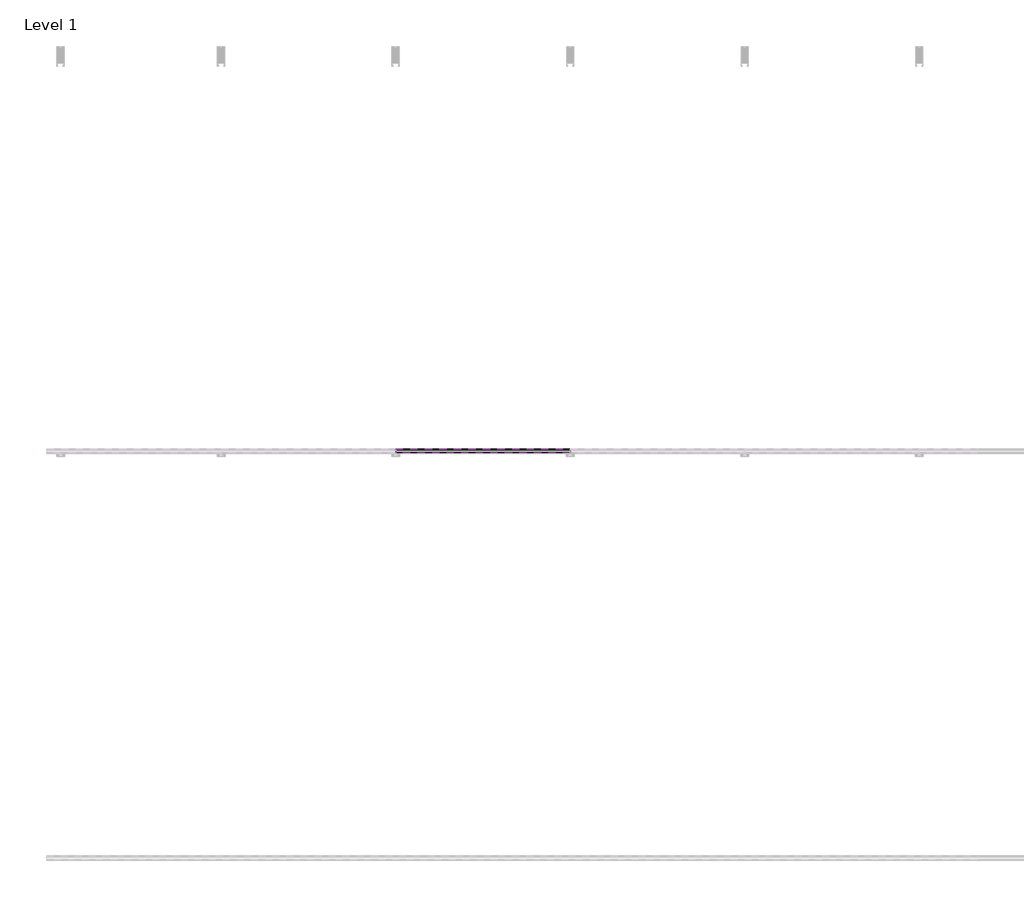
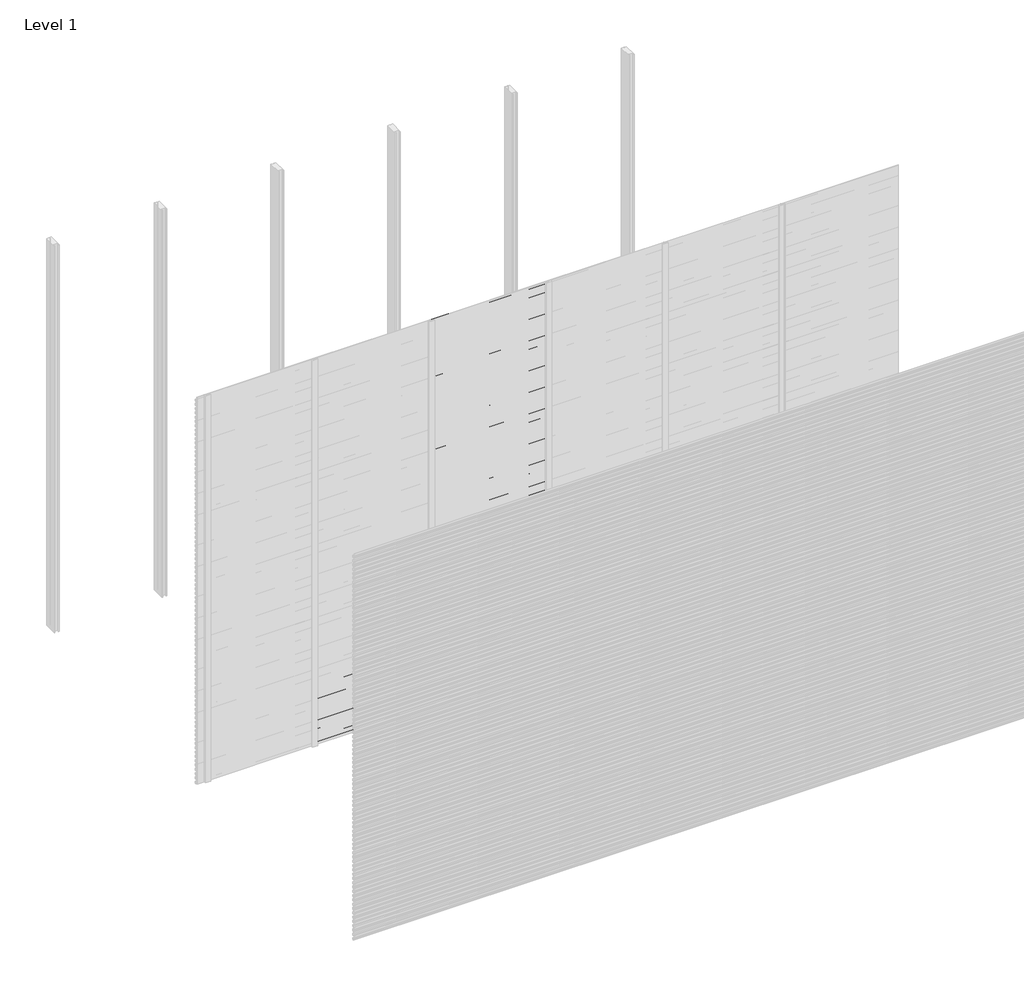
# One storey, part 54 of 96: 76 proxies.
"""IFC4 building model written with IfcOpenShell, lengths in millimetres."""

from ifc_helpers import new_model, si_unit, frame, origin, place, context, project, spatial, polyline, outline, extrude, element, save

model = new_model("IFC4")

# Units and contexts
model_context = context("Model", 3, world=origin())
ifc_project = project(units=[si_unit("LENGTHUNIT", "METRE", prefix="MILLI")], contexts=[model_context])

# Site, building, storey
site = spatial("IfcSite", under=ifc_project)
building = spatial("IfcBuilding", under=site)
storey = spatial("IfcBuildingStorey", under=building, Name="Level 1", Elevation=0.0)

# Proxies
placement = place(None, origin())
element("IfcBuildingElementProxy", 1, Name="Wall Sweeps", at=placement, inside=storey, context=model_context, shape_type="SweptSolid", body=[
    extrude(outline(polyline([(-23977.6, 440.9655033), (-23977.6, 426.6779188), (-23982.4114965, 423.9), (-23982.4114965, 425.1701706), (-23978.85, 427.2264016), (-23978.85, 440.2437382), (-23998.0, 451.3000799), (-23998.0, 466.2), (-23996.75, 466.2), (-23996.75, 452.0217609), (-23977.6, 440.9655033)])), frame((857.1428571, 0.0, 0.0), z_axis=(1.0, 0.0, 0.0), x_axis=(0.0, 1.0, 0.0)), (0.0, 0.0, 1.0), 857.1428571),
])
element("IfcBuildingElementProxy", 2, Name="Wall Sweeps", at=placement, inside=storey, context=model_context, shape_type="SweptSolid", body=[
    extrude(outline(polyline([(-23977.6, 407.6655033), (-23977.6, 393.3779188), (-23982.4114965, 390.6), (-23982.4114965, 391.8701706), (-23978.85, 393.9264016), (-23978.85, 406.9437382), (-23998.0, 418.0000799), (-23998.0, 432.9), (-23996.75, 432.9), (-23996.75, 418.7217609), (-23977.6, 407.6655033)])), frame((857.1428571, 0.0, 0.0), z_axis=(1.0, 0.0, 0.0), x_axis=(0.0, 1.0, 0.0)), (0.0, 0.0, 1.0), 857.1428571),
])
element("IfcBuildingElementProxy", 3, Name="Wall Sweeps", at=placement, inside=storey, context=model_context, shape_type="SweptSolid", body=[
    extrude(outline(polyline([(-23977.6, 374.3655033), (-23977.6, 360.0779188), (-23982.4114965, 357.3), (-23982.4114965, 358.5701706), (-23978.85, 360.6264016), (-23978.85, 373.6437382), (-23998.0, 384.7000799), (-23998.0, 399.6), (-23996.75, 399.6), (-23996.75, 385.4217609), (-23977.6, 374.3655033)])), frame((857.1428571, 0.0, 0.0), z_axis=(1.0, 0.0, 0.0), x_axis=(0.0, 1.0, 0.0)), (0.0, 0.0, 1.0), 857.1428571),
])
element("IfcBuildingElementProxy", 4, Name="Wall Sweeps", at=placement, inside=storey, context=model_context, shape_type="SweptSolid", body=[
    extrude(outline(polyline([(-23977.6, 341.0655033), (-23977.6, 326.7779188), (-23982.4114965, 324.0), (-23982.4114965, 325.2701706), (-23978.85, 327.3264016), (-23978.85, 340.3437382), (-23998.0, 351.4000799), (-23998.0, 366.3), (-23996.75, 366.3), (-23996.75, 352.1217609), (-23977.6, 341.0655033)])), frame((857.1428571, 0.0, 0.0), z_axis=(1.0, 0.0, 0.0), x_axis=(0.0, 1.0, 0.0)), (0.0, 0.0, 1.0), 857.1428571),
])
element("IfcBuildingElementProxy", 5, Name="Wall Sweeps", at=placement, inside=storey, context=model_context, shape_type="SweptSolid", body=[
    extrude(outline(polyline([(-23977.6, 307.7655033), (-23977.6, 293.4779188), (-23982.4114965, 290.7), (-23982.4114965, 291.9701706), (-23978.85, 294.0264016), (-23978.85, 307.0437382), (-23998.0, 318.1000799), (-23998.0, 333.0), (-23996.75, 333.0), (-23996.75, 318.8217609), (-23977.6, 307.7655033)])), frame((857.1428571, 0.0, 0.0), z_axis=(1.0, 0.0, 0.0), x_axis=(0.0, 1.0, 0.0)), (0.0, 0.0, 1.0), 857.1428571),
])
element("IfcBuildingElementProxy", 6, Name="Wall Sweeps", at=placement, inside=storey, context=model_context, shape_type="SweptSolid", body=[
    extrude(outline(polyline([(-23977.6, 274.4655033), (-23977.6, 260.1779188), (-23982.4114965, 257.4), (-23982.4114965, 258.6701706), (-23978.85, 260.7264016), (-23978.85, 273.7437382), (-23998.0, 284.8000799), (-23998.0, 299.7), (-23996.75, 299.7), (-23996.75, 285.5217609), (-23977.6, 274.4655033)])), frame((857.1428571, 0.0, 0.0), z_axis=(1.0, 0.0, 0.0), x_axis=(0.0, 1.0, 0.0)), (0.0, 0.0, 1.0), 857.1428571),
])
element("IfcBuildingElementProxy", 7, Name="Wall Sweeps", at=placement, inside=storey, context=model_context, shape_type="SweptSolid", body=[
    extrude(outline(polyline([(-23977.6, 241.1655033), (-23977.6, 226.8779188), (-23982.4114965, 224.1), (-23982.4114965, 225.3701706), (-23978.85, 227.4264016), (-23978.85, 240.4437382), (-23998.0, 251.5000799), (-23998.0, 266.4), (-23996.75, 266.4), (-23996.75, 252.2217609), (-23977.6, 241.1655033)])), frame((857.1428571, 0.0, 0.0), z_axis=(1.0, 0.0, 0.0), x_axis=(0.0, 1.0, 0.0)), (0.0, 0.0, 1.0), 857.1428571),
])
element("IfcBuildingElementProxy", 8, Name="Wall Sweeps", at=placement, inside=storey, context=model_context, shape_type="SweptSolid", body=[
    extrude(outline(polyline([(-23977.6, 207.8655033), (-23977.6, 193.5779188), (-23982.4114965, 190.8), (-23982.4114965, 192.0701706), (-23978.85, 194.1264016), (-23978.85, 207.1437382), (-23998.0, 218.2000799), (-23998.0, 233.1), (-23996.75, 233.1), (-23996.75, 218.9217609), (-23977.6, 207.8655033)])), frame((857.1428571, 0.0, 0.0), z_axis=(1.0, 0.0, 0.0), x_axis=(0.0, 1.0, 0.0)), (0.0, 0.0, 1.0), 857.1428571),
])
element("IfcBuildingElementProxy", 9, Name="Wall Sweeps", at=placement, inside=storey, context=model_context, shape_type="SweptSolid", body=[
    extrude(outline(polyline([(-23977.6, 174.5655033), (-23977.6, 160.2779188), (-23982.4114965, 157.5), (-23982.4114965, 158.7701706), (-23978.85, 160.8264016), (-23978.85, 173.8437382), (-23998.0, 184.9000799), (-23998.0, 199.8), (-23996.75, 199.8), (-23996.75, 185.6217609), (-23977.6, 174.5655033)])), frame((857.1428571, 0.0, 0.0), z_axis=(1.0, 0.0, 0.0), x_axis=(0.0, 1.0, 0.0)), (0.0, 0.0, 1.0), 857.1428571),
])
element("IfcBuildingElementProxy", 10, Name="Wall Sweeps", at=placement, inside=storey, context=model_context, shape_type="SweptSolid", body=[
    extrude(outline(polyline([(-23977.6, 141.2655033), (-23977.6, 126.9779188), (-23982.4114965, 124.2), (-23982.4114965, 125.4701706), (-23978.85, 127.5264016), (-23978.85, 140.5437382), (-23998.0, 151.6000799), (-23998.0, 166.5), (-23996.75, 166.5), (-23996.75, 152.3217609), (-23977.6, 141.2655033)])), frame((857.1428571, 0.0, 0.0), z_axis=(1.0, 0.0, 0.0), x_axis=(0.0, 1.0, 0.0)), (0.0, 0.0, 1.0), 857.1428571),
])
element("IfcBuildingElementProxy", 11, Name="Wall Sweeps", at=placement, inside=storey, context=model_context, shape_type="SweptSolid", body=[
    extrude(outline(polyline([(-23977.6, 107.9655033), (-23977.6, 93.6779188), (-23982.4114965, 90.9), (-23982.4114965, 92.1701706), (-23978.85, 94.2264016), (-23978.85, 107.2437382), (-23998.0, 118.3000799), (-23998.0, 133.2), (-23996.75, 133.2), (-23996.75, 119.0217609), (-23977.6, 107.9655033)])), frame((857.1428571, 0.0, 0.0), z_axis=(1.0, 0.0, 0.0), x_axis=(0.0, 1.0, 0.0)), (0.0, 0.0, 1.0), 857.1428571),
])
element("IfcBuildingElementProxy", 12, Name="Wall Sweeps", at=placement, inside=storey, context=model_context, shape_type="SweptSolid", body=[
    extrude(outline(polyline([(-23977.6, 74.6655033), (-23977.6, 60.3779188), (-23982.4114965, 57.6), (-23982.4114965, 58.8701706), (-23978.85, 60.9264016), (-23978.85, 73.9437382), (-23998.0, 85.0000799), (-23998.0, 99.9), (-23996.75, 99.9), (-23996.75, 85.7217609), (-23977.6, 74.6655033)])), frame((857.1428571, 0.0, 0.0), z_axis=(1.0, 0.0, 0.0), x_axis=(0.0, 1.0, 0.0)), (0.0, 0.0, 1.0), 857.1428571),
])
element("IfcBuildingElementProxy", 13, Name="Wall Sweeps", at=placement, inside=storey, context=model_context, shape_type="SweptSolid", body=[
    extrude(outline(polyline([(-23977.6, 41.3655033), (-23977.6, 27.0779188), (-23982.4114965, 24.3), (-23982.4114965, 25.5701706), (-23978.85, 27.6264016), (-23978.85, 40.6437382), (-23998.0, 51.7000799), (-23998.0, 66.6), (-23996.75, 66.6), (-23996.75, 52.4217609), (-23977.6, 41.3655033)])), frame((857.1428571, 0.0, 0.0), z_axis=(1.0, 0.0, 0.0), x_axis=(0.0, 1.0, 0.0)), (0.0, 0.0, 1.0), 857.1428571),
])
element("IfcBuildingElementProxy", 14, Name="Wall Sweeps", at=placement, inside=storey, context=model_context, shape_type="SweptSolid", body=[
    extrude(outline(polyline([(-23977.6, 8.0655033), (-23977.6, -6.2220812), (-23982.4114965, -9.0), (-23982.4114965, -7.7298294), (-23978.85, -5.6735984), (-23978.85, 7.3437382), (-23998.0, 18.4000799), (-23998.0, 33.3), (-23996.75, 33.3), (-23996.75, 19.1217609), (-23977.6, 8.0655033)])), frame((857.1428571, 0.0, 0.0), z_axis=(1.0, 0.0, 0.0), x_axis=(0.0, 1.0, 0.0)), (0.0, 0.0, 1.0), 857.1428571),
])
element("IfcBuildingElementProxy", 15, Name="Wall Sweeps", at=placement, inside=storey, context=model_context, shape_type="SweptSolid", body=[
    extrude(outline(polyline([(-23977.6, 2971.7655033), (-23977.6, 2957.4779188), (-23982.4114965, 2954.7), (-23982.4114965, 2955.9701706), (-23978.85, 2958.0264016), (-23978.85, 2971.0437382), (-23998.0, 2982.1000799), (-23998.0, 2997.0), (-23996.75, 2997.0), (-23996.75, 2982.8217609), (-23977.6, 2971.7655033)])), frame((1714.2857143, 0.0, 0.0), z_axis=(1.0, 0.0, 0.0), x_axis=(0.0, 1.0, 0.0)), (0.0, 0.0, 1.0), 857.1428571),
])
element("IfcBuildingElementProxy", 16, Name="Wall Sweeps", at=placement, inside=storey, context=model_context, shape_type="SweptSolid", body=[
    extrude(outline(polyline([(-23977.6, 2938.4655033), (-23977.6, 2924.1779188), (-23982.4114965, 2921.4), (-23982.4114965, 2922.6701706), (-23978.85, 2924.7264016), (-23978.85, 2937.7437382), (-23998.0, 2948.8000799), (-23998.0, 2963.7), (-23996.75, 2963.7), (-23996.75, 2949.5217609), (-23977.6, 2938.4655033)])), frame((1714.2857143, 0.0, 0.0), z_axis=(1.0, 0.0, 0.0), x_axis=(0.0, 1.0, 0.0)), (0.0, 0.0, 1.0), 857.1428571),
])
element("IfcBuildingElementProxy", 17, Name="Wall Sweeps", at=placement, inside=storey, context=model_context, shape_type="SweptSolid", body=[
    extrude(outline(polyline([(-23977.6, 2905.1655033), (-23977.6, 2890.8779188), (-23982.4114965, 2888.1), (-23982.4114965, 2889.3701706), (-23978.85, 2891.4264016), (-23978.85, 2904.4437382), (-23998.0, 2915.5000799), (-23998.0, 2930.4), (-23996.75, 2930.4), (-23996.75, 2916.2217609), (-23977.6, 2905.1655033)])), frame((1714.2857143, 0.0, 0.0), z_axis=(1.0, 0.0, 0.0), x_axis=(0.0, 1.0, 0.0)), (0.0, 0.0, 1.0), 857.1428571),
])
element("IfcBuildingElementProxy", 18, Name="Wall Sweeps", at=placement, inside=storey, context=model_context, shape_type="SweptSolid", body=[
    extrude(outline(polyline([(-23977.6, 2871.8655033), (-23977.6, 2857.5779188), (-23982.4114965, 2854.8), (-23982.4114965, 2856.0701706), (-23978.85, 2858.1264016), (-23978.85, 2871.1437382), (-23998.0, 2882.2000799), (-23998.0, 2897.1), (-23996.75, 2897.1), (-23996.75, 2882.9217609), (-23977.6, 2871.8655033)])), frame((1714.2857143, 0.0, 0.0), z_axis=(1.0, 0.0, 0.0), x_axis=(0.0, 1.0, 0.0)), (0.0, 0.0, 1.0), 857.1428571),
])
element("IfcBuildingElementProxy", 19, Name="Wall Sweeps", at=placement, inside=storey, context=model_context, shape_type="SweptSolid", body=[
    extrude(outline(polyline([(-23977.6, 2838.5655033), (-23977.6, 2824.2779188), (-23982.4114965, 2821.5), (-23982.4114965, 2822.7701706), (-23978.85, 2824.8264016), (-23978.85, 2837.8437382), (-23998.0, 2848.9000799), (-23998.0, 2863.8), (-23996.75, 2863.8), (-23996.75, 2849.6217609), (-23977.6, 2838.5655033)])), frame((1714.2857143, 0.0, 0.0), z_axis=(1.0, 0.0, 0.0), x_axis=(0.0, 1.0, 0.0)), (0.0, 0.0, 1.0), 857.1428571),
])
element("IfcBuildingElementProxy", 20, Name="Wall Sweeps", at=placement, inside=storey, context=model_context, shape_type="SweptSolid", body=[
    extrude(outline(polyline([(-23977.6, 2805.2655033), (-23977.6, 2790.9779188), (-23982.4114965, 2788.2), (-23982.4114965, 2789.4701706), (-23978.85, 2791.5264016), (-23978.85, 2804.5437382), (-23998.0, 2815.6000799), (-23998.0, 2830.5), (-23996.75, 2830.5), (-23996.75, 2816.3217609), (-23977.6, 2805.2655033)])), frame((1714.2857143, 0.0, 0.0), z_axis=(1.0, 0.0, 0.0), x_axis=(0.0, 1.0, 0.0)), (0.0, 0.0, 1.0), 857.1428571),
])
element("IfcBuildingElementProxy", 21, Name="Wall Sweeps", at=placement, inside=storey, context=model_context, shape_type="SweptSolid", body=[
    extrude(outline(polyline([(-23977.6, 2771.9655033), (-23977.6, 2757.6779188), (-23982.4114965, 2754.9), (-23982.4114965, 2756.1701706), (-23978.85, 2758.2264016), (-23978.85, 2771.2437382), (-23998.0, 2782.3000799), (-23998.0, 2797.2), (-23996.75, 2797.2), (-23996.75, 2783.0217609), (-23977.6, 2771.9655033)])), frame((1714.2857143, 0.0, 0.0), z_axis=(1.0, 0.0, 0.0), x_axis=(0.0, 1.0, 0.0)), (0.0, 0.0, 1.0), 857.1428571),
])
element("IfcBuildingElementProxy", 22, Name="Wall Sweeps", at=placement, inside=storey, context=model_context, shape_type="SweptSolid", body=[
    extrude(outline(polyline([(-23977.6, 2738.6655033), (-23977.6, 2724.3779188), (-23982.4114965, 2721.6), (-23982.4114965, 2722.8701706), (-23978.85, 2724.9264016), (-23978.85, 2737.9437382), (-23998.0, 2749.0000799), (-23998.0, 2763.9), (-23996.75, 2763.9), (-23996.75, 2749.7217609), (-23977.6, 2738.6655033)])), frame((1714.2857143, 0.0, 0.0), z_axis=(1.0, 0.0, 0.0), x_axis=(0.0, 1.0, 0.0)), (0.0, 0.0, 1.0), 857.1428571),
])
element("IfcBuildingElementProxy", 23, Name="Wall Sweeps", at=placement, inside=storey, context=model_context, shape_type="SweptSolid", body=[
    extrude(outline(polyline([(-23977.6, 2705.3655033), (-23977.6, 2691.0779188), (-23982.4114965, 2688.3), (-23982.4114965, 2689.5701706), (-23978.85, 2691.6264016), (-23978.85, 2704.6437382), (-23998.0, 2715.7000799), (-23998.0, 2730.6), (-23996.75, 2730.6), (-23996.75, 2716.4217609), (-23977.6, 2705.3655033)])), frame((1714.2857143, 0.0, 0.0), z_axis=(1.0, 0.0, 0.0), x_axis=(0.0, 1.0, 0.0)), (0.0, 0.0, 1.0), 857.1428571),
])
element("IfcBuildingElementProxy", 24, Name="Wall Sweeps", at=placement, inside=storey, context=model_context, shape_type="SweptSolid", body=[
    extrude(outline(polyline([(-23977.6, 2672.0655033), (-23977.6, 2657.7779188), (-23982.4114965, 2655.0), (-23982.4114965, 2656.2701706), (-23978.85, 2658.3264016), (-23978.85, 2671.3437382), (-23998.0, 2682.4000799), (-23998.0, 2697.3), (-23996.75, 2697.3), (-23996.75, 2683.1217609), (-23977.6, 2672.0655033)])), frame((1714.2857143, 0.0, 0.0), z_axis=(1.0, 0.0, 0.0), x_axis=(0.0, 1.0, 0.0)), (0.0, 0.0, 1.0), 857.1428571),
])
element("IfcBuildingElementProxy", 25, Name="Wall Sweeps", at=placement, inside=storey, context=model_context, shape_type="SweptSolid", body=[
    extrude(outline(polyline([(-23977.6, 2638.7655033), (-23977.6, 2624.4779188), (-23982.4114965, 2621.7), (-23982.4114965, 2622.9701706), (-23978.85, 2625.0264016), (-23978.85, 2638.0437382), (-23998.0, 2649.1000799), (-23998.0, 2664.0), (-23996.75, 2664.0), (-23996.75, 2649.8217609), (-23977.6, 2638.7655033)])), frame((1714.2857143, 0.0, 0.0), z_axis=(1.0, 0.0, 0.0), x_axis=(0.0, 1.0, 0.0)), (0.0, 0.0, 1.0), 857.1428571),
])
element("IfcBuildingElementProxy", 26, Name="Wall Sweeps", at=placement, inside=storey, context=model_context, shape_type="SweptSolid", body=[
    extrude(outline(polyline([(-23977.6, 2605.4655033), (-23977.6, 2591.1779188), (-23982.4114965, 2588.4), (-23982.4114965, 2589.6701706), (-23978.85, 2591.7264016), (-23978.85, 2604.7437382), (-23998.0, 2615.8000799), (-23998.0, 2630.7), (-23996.75, 2630.7), (-23996.75, 2616.5217609), (-23977.6, 2605.4655033)])), frame((1714.2857143, 0.0, 0.0), z_axis=(1.0, 0.0, 0.0), x_axis=(0.0, 1.0, 0.0)), (0.0, 0.0, 1.0), 857.1428571),
])
element("IfcBuildingElementProxy", 27, Name="Wall Sweeps", at=placement, inside=storey, context=model_context, shape_type="SweptSolid", body=[
    extrude(outline(polyline([(-23977.6, 2572.1655033), (-23977.6, 2557.8779188), (-23982.4114965, 2555.1), (-23982.4114965, 2556.3701706), (-23978.85, 2558.4264016), (-23978.85, 2571.4437382), (-23998.0, 2582.5000799), (-23998.0, 2597.4), (-23996.75, 2597.4), (-23996.75, 2583.2217609), (-23977.6, 2572.1655033)])), frame((1714.2857143, 0.0, 0.0), z_axis=(1.0, 0.0, 0.0), x_axis=(0.0, 1.0, 0.0)), (0.0, 0.0, 1.0), 857.1428571),
])
element("IfcBuildingElementProxy", 28, Name="Wall Sweeps", at=placement, inside=storey, context=model_context, shape_type="SweptSolid", body=[
    extrude(outline(polyline([(-23977.6, 2538.8655033), (-23977.6, 2524.5779188), (-23982.4114965, 2521.8), (-23982.4114965, 2523.0701706), (-23978.85, 2525.1264016), (-23978.85, 2538.1437382), (-23998.0, 2549.2000799), (-23998.0, 2564.1), (-23996.75, 2564.1), (-23996.75, 2549.9217609), (-23977.6, 2538.8655033)])), frame((1714.2857143, 0.0, 0.0), z_axis=(1.0, 0.0, 0.0), x_axis=(0.0, 1.0, 0.0)), (0.0, 0.0, 1.0), 857.1428571),
])
element("IfcBuildingElementProxy", 29, Name="Wall Sweeps", at=placement, inside=storey, context=model_context, shape_type="SweptSolid", body=[
    extrude(outline(polyline([(-23977.6, 2505.5655033), (-23977.6, 2491.2779188), (-23982.4114965, 2488.5), (-23982.4114965, 2489.7701706), (-23978.85, 2491.8264016), (-23978.85, 2504.8437382), (-23998.0, 2515.9000799), (-23998.0, 2530.8), (-23996.75, 2530.8), (-23996.75, 2516.6217609), (-23977.6, 2505.5655033)])), frame((1714.2857143, 0.0, 0.0), z_axis=(1.0, 0.0, 0.0), x_axis=(0.0, 1.0, 0.0)), (0.0, 0.0, 1.0), 857.1428571),
])
element("IfcBuildingElementProxy", 30, Name="Wall Sweeps", at=placement, inside=storey, context=model_context, shape_type="SweptSolid", body=[
    extrude(outline(polyline([(-23977.6, 2472.2655033), (-23977.6, 2457.9779188), (-23982.4114965, 2455.2), (-23982.4114965, 2456.4701706), (-23978.85, 2458.5264016), (-23978.85, 2471.5437382), (-23998.0, 2482.6000799), (-23998.0, 2497.5), (-23996.75, 2497.5), (-23996.75, 2483.3217609), (-23977.6, 2472.2655033)])), frame((1714.2857143, 0.0, 0.0), z_axis=(1.0, 0.0, 0.0), x_axis=(0.0, 1.0, 0.0)), (0.0, 0.0, 1.0), 857.1428571),
])
element("IfcBuildingElementProxy", 31, Name="Wall Sweeps", at=placement, inside=storey, context=model_context, shape_type="SweptSolid", body=[
    extrude(outline(polyline([(-23977.6, 2438.9655033), (-23977.6, 2424.6779188), (-23982.4114965, 2421.9), (-23982.4114965, 2423.1701706), (-23978.85, 2425.2264016), (-23978.85, 2438.2437382), (-23998.0, 2449.3000799), (-23998.0, 2464.2), (-23996.75, 2464.2), (-23996.75, 2450.0217609), (-23977.6, 2438.9655033)])), frame((1714.2857143, 0.0, 0.0), z_axis=(1.0, 0.0, 0.0), x_axis=(0.0, 1.0, 0.0)), (0.0, 0.0, 1.0), 857.1428571),
])
element("IfcBuildingElementProxy", 32, Name="Wall Sweeps", at=placement, inside=storey, context=model_context, shape_type="SweptSolid", body=[
    extrude(outline(polyline([(-23977.6, 2405.6655033), (-23977.6, 2391.3779188), (-23982.4114965, 2388.6), (-23982.4114965, 2389.8701706), (-23978.85, 2391.9264016), (-23978.85, 2404.9437382), (-23998.0, 2416.0000799), (-23998.0, 2430.9), (-23996.75, 2430.9), (-23996.75, 2416.7217609), (-23977.6, 2405.6655033)])), frame((1714.2857143, 0.0, 0.0), z_axis=(1.0, 0.0, 0.0), x_axis=(0.0, 1.0, 0.0)), (0.0, 0.0, 1.0), 857.1428571),
])
element("IfcBuildingElementProxy", 33, Name="Wall Sweeps", at=placement, inside=storey, context=model_context, shape_type="SweptSolid", body=[
    extrude(outline(polyline([(-23977.6, 2372.3655033), (-23977.6, 2358.0779188), (-23982.4114965, 2355.3), (-23982.4114965, 2356.5701706), (-23978.85, 2358.6264016), (-23978.85, 2371.6437382), (-23998.0, 2382.7000799), (-23998.0, 2397.6), (-23996.75, 2397.6), (-23996.75, 2383.4217609), (-23977.6, 2372.3655033)])), frame((1714.2857143, 0.0, 0.0), z_axis=(1.0, 0.0, 0.0), x_axis=(0.0, 1.0, 0.0)), (0.0, 0.0, 1.0), 857.1428571),
])
element("IfcBuildingElementProxy", 34, Name="Wall Sweeps", at=placement, inside=storey, context=model_context, shape_type="SweptSolid", body=[
    extrude(outline(polyline([(-23977.6, 2339.0655033), (-23977.6, 2324.7779188), (-23982.4114965, 2322.0), (-23982.4114965, 2323.2701706), (-23978.85, 2325.3264016), (-23978.85, 2338.3437382), (-23998.0, 2349.4000799), (-23998.0, 2364.3), (-23996.75, 2364.3), (-23996.75, 2350.1217609), (-23977.6, 2339.0655033)])), frame((1714.2857143, 0.0, 0.0), z_axis=(1.0, 0.0, 0.0), x_axis=(0.0, 1.0, 0.0)), (0.0, 0.0, 1.0), 857.1428571),
])
element("IfcBuildingElementProxy", 35, Name="Wall Sweeps", at=placement, inside=storey, context=model_context, shape_type="SweptSolid", body=[
    extrude(outline(polyline([(-23977.6, 2305.7655033), (-23977.6, 2291.4779188), (-23982.4114965, 2288.7), (-23982.4114965, 2289.9701706), (-23978.85, 2292.0264016), (-23978.85, 2305.0437382), (-23998.0, 2316.1000799), (-23998.0, 2331.0), (-23996.75, 2331.0), (-23996.75, 2316.8217609), (-23977.6, 2305.7655033)])), frame((1714.2857143, 0.0, 0.0), z_axis=(1.0, 0.0, 0.0), x_axis=(0.0, 1.0, 0.0)), (0.0, 0.0, 1.0), 857.1428571),
])
element("IfcBuildingElementProxy", 36, Name="Wall Sweeps", at=placement, inside=storey, context=model_context, shape_type="SweptSolid", body=[
    extrude(outline(polyline([(-23977.6, 2272.4655033), (-23977.6, 2258.1779188), (-23982.4114965, 2255.4), (-23982.4114965, 2256.6701706), (-23978.85, 2258.7264016), (-23978.85, 2271.7437382), (-23998.0, 2282.8000799), (-23998.0, 2297.7), (-23996.75, 2297.7), (-23996.75, 2283.5217609), (-23977.6, 2272.4655033)])), frame((1714.2857143, 0.0, 0.0), z_axis=(1.0, 0.0, 0.0), x_axis=(0.0, 1.0, 0.0)), (0.0, 0.0, 1.0), 857.1428571),
])
element("IfcBuildingElementProxy", 37, Name="Wall Sweeps", at=placement, inside=storey, context=model_context, shape_type="SweptSolid", body=[
    extrude(outline(polyline([(-23977.6, 2239.1655033), (-23977.6, 2224.8779188), (-23982.4114965, 2222.1), (-23982.4114965, 2223.3701706), (-23978.85, 2225.4264016), (-23978.85, 2238.4437382), (-23998.0, 2249.5000799), (-23998.0, 2264.4), (-23996.75, 2264.4), (-23996.75, 2250.2217609), (-23977.6, 2239.1655033)])), frame((1714.2857143, 0.0, 0.0), z_axis=(1.0, 0.0, 0.0), x_axis=(0.0, 1.0, 0.0)), (0.0, 0.0, 1.0), 857.1428571),
])
element("IfcBuildingElementProxy", 38, Name="Wall Sweeps", at=placement, inside=storey, context=model_context, shape_type="SweptSolid", body=[
    extrude(outline(polyline([(-23977.6, 2205.8655033), (-23977.6, 2191.5779188), (-23982.4114965, 2188.8), (-23982.4114965, 2190.0701706), (-23978.85, 2192.1264016), (-23978.85, 2205.1437382), (-23998.0, 2216.2000799), (-23998.0, 2231.1), (-23996.75, 2231.1), (-23996.75, 2216.9217609), (-23977.6, 2205.8655033)])), frame((1714.2857143, 0.0, 0.0), z_axis=(1.0, 0.0, 0.0), x_axis=(0.0, 1.0, 0.0)), (0.0, 0.0, 1.0), 857.1428571),
])
element("IfcBuildingElementProxy", 39, Name="Wall Sweeps", at=placement, inside=storey, context=model_context, shape_type="SweptSolid", body=[
    extrude(outline(polyline([(-23977.6, 2172.5655033), (-23977.6, 2158.2779188), (-23982.4114965, 2155.5), (-23982.4114965, 2156.7701706), (-23978.85, 2158.8264016), (-23978.85, 2171.8437382), (-23998.0, 2182.9000799), (-23998.0, 2197.8), (-23996.75, 2197.8), (-23996.75, 2183.6217609), (-23977.6, 2172.5655033)])), frame((1714.2857143, 0.0, 0.0), z_axis=(1.0, 0.0, 0.0), x_axis=(0.0, 1.0, 0.0)), (0.0, 0.0, 1.0), 857.1428571),
])
element("IfcBuildingElementProxy", 40, Name="Wall Sweeps", at=placement, inside=storey, context=model_context, shape_type="SweptSolid", body=[
    extrude(outline(polyline([(-23977.6, 2139.2655033), (-23977.6, 2124.9779188), (-23982.4114965, 2122.2), (-23982.4114965, 2123.4701706), (-23978.85, 2125.5264016), (-23978.85, 2138.5437382), (-23998.0, 2149.6000799), (-23998.0, 2164.5), (-23996.75, 2164.5), (-23996.75, 2150.3217609), (-23977.6, 2139.2655033)])), frame((1714.2857143, 0.0, 0.0), z_axis=(1.0, 0.0, 0.0), x_axis=(0.0, 1.0, 0.0)), (0.0, 0.0, 1.0), 857.1428571),
])
element("IfcBuildingElementProxy", 41, Name="Wall Sweeps", at=placement, inside=storey, context=model_context, shape_type="SweptSolid", body=[
    extrude(outline(polyline([(-23977.6, 2105.9655033), (-23977.6, 2091.6779188), (-23982.4114965, 2088.9), (-23982.4114965, 2090.1701706), (-23978.85, 2092.2264016), (-23978.85, 2105.2437382), (-23998.0, 2116.3000799), (-23998.0, 2131.2), (-23996.75, 2131.2), (-23996.75, 2117.0217609), (-23977.6, 2105.9655033)])), frame((1714.2857143, 0.0, 0.0), z_axis=(1.0, 0.0, 0.0), x_axis=(0.0, 1.0, 0.0)), (0.0, 0.0, 1.0), 857.1428571),
])
element("IfcBuildingElementProxy", 42, Name="Wall Sweeps", at=placement, inside=storey, context=model_context, shape_type="SweptSolid", body=[
    extrude(outline(polyline([(-23977.6, 2072.6655033), (-23977.6, 2058.3779188), (-23982.4114965, 2055.6), (-23982.4114965, 2056.8701706), (-23978.85, 2058.9264016), (-23978.85, 2071.9437382), (-23998.0, 2083.0000799), (-23998.0, 2097.9), (-23996.75, 2097.9), (-23996.75, 2083.7217609), (-23977.6, 2072.6655033)])), frame((1714.2857143, 0.0, 0.0), z_axis=(1.0, 0.0, 0.0), x_axis=(0.0, 1.0, 0.0)), (0.0, 0.0, 1.0), 857.1428571),
])
element("IfcBuildingElementProxy", 43, Name="Wall Sweeps", at=placement, inside=storey, context=model_context, shape_type="SweptSolid", body=[
    extrude(outline(polyline([(-23977.6, 2039.3655033), (-23977.6, 2025.0779188), (-23982.4114965, 2022.3), (-23982.4114965, 2023.5701706), (-23978.85, 2025.6264016), (-23978.85, 2038.6437382), (-23998.0, 2049.7000799), (-23998.0, 2064.6), (-23996.75, 2064.6), (-23996.75, 2050.4217609), (-23977.6, 2039.3655033)])), frame((1714.2857143, 0.0, 0.0), z_axis=(1.0, 0.0, 0.0), x_axis=(0.0, 1.0, 0.0)), (0.0, 0.0, 1.0), 857.1428571),
])
element("IfcBuildingElementProxy", 44, Name="Wall Sweeps", at=placement, inside=storey, context=model_context, shape_type="SweptSolid", body=[
    extrude(outline(polyline([(-23977.6, 2006.0655033), (-23977.6, 1991.7779188), (-23982.4114965, 1989.0), (-23982.4114965, 1990.2701706), (-23978.85, 1992.3264016), (-23978.85, 2005.3437382), (-23998.0, 2016.4000799), (-23998.0, 2031.3), (-23996.75, 2031.3), (-23996.75, 2017.1217609), (-23977.6, 2006.0655033)])), frame((1714.2857143, 0.0, 0.0), z_axis=(1.0, 0.0, 0.0), x_axis=(0.0, 1.0, 0.0)), (0.0, 0.0, 1.0), 857.1428571),
])
element("IfcBuildingElementProxy", 45, Name="Wall Sweeps", at=placement, inside=storey, context=model_context, shape_type="SweptSolid", body=[
    extrude(outline(polyline([(-23977.6, 1972.7655033), (-23977.6, 1958.4779188), (-23982.4114965, 1955.7), (-23982.4114965, 1956.9701706), (-23978.85, 1959.0264016), (-23978.85, 1972.0437382), (-23998.0, 1983.1000799), (-23998.0, 1998.0), (-23996.75, 1998.0), (-23996.75, 1983.8217609), (-23977.6, 1972.7655033)])), frame((1714.2857143, 0.0, 0.0), z_axis=(1.0, 0.0, 0.0), x_axis=(0.0, 1.0, 0.0)), (0.0, 0.0, 1.0), 857.1428571),
])
element("IfcBuildingElementProxy", 46, Name="Wall Sweeps", at=placement, inside=storey, context=model_context, shape_type="SweptSolid", body=[
    extrude(outline(polyline([(-23977.6, 1939.4655033), (-23977.6, 1925.1779188), (-23982.4114965, 1922.4), (-23982.4114965, 1923.6701706), (-23978.85, 1925.7264016), (-23978.85, 1938.7437382), (-23998.0, 1949.8000799), (-23998.0, 1964.7), (-23996.75, 1964.7), (-23996.75, 1950.5217609), (-23977.6, 1939.4655033)])), frame((1714.2857143, 0.0, 0.0), z_axis=(1.0, 0.0, 0.0), x_axis=(0.0, 1.0, 0.0)), (0.0, 0.0, 1.0), 857.1428571),
])
element("IfcBuildingElementProxy", 47, Name="Wall Sweeps", at=placement, inside=storey, context=model_context, shape_type="SweptSolid", body=[
    extrude(outline(polyline([(-23977.6, 1906.1655033), (-23977.6, 1891.8779188), (-23982.4114965, 1889.1), (-23982.4114965, 1890.3701706), (-23978.85, 1892.4264016), (-23978.85, 1905.4437382), (-23998.0, 1916.5000799), (-23998.0, 1931.4), (-23996.75, 1931.4), (-23996.75, 1917.2217609), (-23977.6, 1906.1655033)])), frame((1714.2857143, 0.0, 0.0), z_axis=(1.0, 0.0, 0.0), x_axis=(0.0, 1.0, 0.0)), (0.0, 0.0, 1.0), 857.1428571),
])
element("IfcBuildingElementProxy", 48, Name="Wall Sweeps", at=placement, inside=storey, context=model_context, shape_type="SweptSolid", body=[
    extrude(outline(polyline([(-23977.6, 1872.8655033), (-23977.6, 1858.5779188), (-23982.4114965, 1855.8), (-23982.4114965, 1857.0701706), (-23978.85, 1859.1264016), (-23978.85, 1872.1437382), (-23998.0, 1883.2000799), (-23998.0, 1898.1), (-23996.75, 1898.1), (-23996.75, 1883.9217609), (-23977.6, 1872.8655033)])), frame((1714.2857143, 0.0, 0.0), z_axis=(1.0, 0.0, 0.0), x_axis=(0.0, 1.0, 0.0)), (0.0, 0.0, 1.0), 857.1428571),
])
element("IfcBuildingElementProxy", 49, Name="Wall Sweeps", at=placement, inside=storey, context=model_context, shape_type="SweptSolid", body=[
    extrude(outline(polyline([(-23977.6, 1839.5655033), (-23977.6, 1825.2779188), (-23982.4114965, 1822.5), (-23982.4114965, 1823.7701706), (-23978.85, 1825.8264016), (-23978.85, 1838.8437382), (-23998.0, 1849.9000799), (-23998.0, 1864.8), (-23996.75, 1864.8), (-23996.75, 1850.6217609), (-23977.6, 1839.5655033)])), frame((1714.2857143, 0.0, 0.0), z_axis=(1.0, 0.0, 0.0), x_axis=(0.0, 1.0, 0.0)), (0.0, 0.0, 1.0), 857.1428571),
])
element("IfcBuildingElementProxy", 50, Name="Wall Sweeps", at=placement, inside=storey, context=model_context, shape_type="SweptSolid", body=[
    extrude(outline(polyline([(-23977.6, 1806.2655033), (-23977.6, 1791.9779188), (-23982.4114965, 1789.2), (-23982.4114965, 1790.4701706), (-23978.85, 1792.5264016), (-23978.85, 1805.5437382), (-23998.0, 1816.6000799), (-23998.0, 1831.5), (-23996.75, 1831.5), (-23996.75, 1817.3217609), (-23977.6, 1806.2655033)])), frame((1714.2857143, 0.0, 0.0), z_axis=(1.0, 0.0, 0.0), x_axis=(0.0, 1.0, 0.0)), (0.0, 0.0, 1.0), 857.1428571),
])
element("IfcBuildingElementProxy", 51, Name="Wall Sweeps", at=placement, inside=storey, context=model_context, shape_type="SweptSolid", body=[
    extrude(outline(polyline([(-23977.6, 1772.9655033), (-23977.6, 1758.6779188), (-23982.4114965, 1755.9), (-23982.4114965, 1757.1701706), (-23978.85, 1759.2264016), (-23978.85, 1772.2437382), (-23998.0, 1783.3000799), (-23998.0, 1798.2), (-23996.75, 1798.2), (-23996.75, 1784.0217609), (-23977.6, 1772.9655033)])), frame((1714.2857143, 0.0, 0.0), z_axis=(1.0, 0.0, 0.0), x_axis=(0.0, 1.0, 0.0)), (0.0, 0.0, 1.0), 857.1428571),
])
element("IfcBuildingElementProxy", 52, Name="Wall Sweeps", at=placement, inside=storey, context=model_context, shape_type="SweptSolid", body=[
    extrude(outline(polyline([(-23977.6, 1739.6655033), (-23977.6, 1725.3779188), (-23982.4114965, 1722.6), (-23982.4114965, 1723.8701706), (-23978.85, 1725.9264016), (-23978.85, 1738.9437382), (-23998.0, 1750.0000799), (-23998.0, 1764.9), (-23996.75, 1764.9), (-23996.75, 1750.7217609), (-23977.6, 1739.6655033)])), frame((1714.2857143, 0.0, 0.0), z_axis=(1.0, 0.0, 0.0), x_axis=(0.0, 1.0, 0.0)), (0.0, 0.0, 1.0), 857.1428571),
])
element("IfcBuildingElementProxy", 53, Name="Wall Sweeps", at=placement, inside=storey, context=model_context, shape_type="SweptSolid", body=[
    extrude(outline(polyline([(-23977.6, 1706.3655033), (-23977.6, 1692.0779188), (-23982.4114965, 1689.3), (-23982.4114965, 1690.5701706), (-23978.85, 1692.6264016), (-23978.85, 1705.6437382), (-23998.0, 1716.7000799), (-23998.0, 1731.6), (-23996.75, 1731.6), (-23996.75, 1717.4217609), (-23977.6, 1706.3655033)])), frame((1714.2857143, 0.0, 0.0), z_axis=(1.0, 0.0, 0.0), x_axis=(0.0, 1.0, 0.0)), (0.0, 0.0, 1.0), 857.1428571),
])
element("IfcBuildingElementProxy", 54, Name="Wall Sweeps", at=placement, inside=storey, context=model_context, shape_type="SweptSolid", body=[
    extrude(outline(polyline([(-23977.6, 1673.0655033), (-23977.6, 1658.7779188), (-23982.4114965, 1656.0), (-23982.4114965, 1657.2701706), (-23978.85, 1659.3264016), (-23978.85, 1672.3437382), (-23998.0, 1683.4000799), (-23998.0, 1698.3), (-23996.75, 1698.3), (-23996.75, 1684.1217609), (-23977.6, 1673.0655033)])), frame((1714.2857143, 0.0, 0.0), z_axis=(1.0, 0.0, 0.0), x_axis=(0.0, 1.0, 0.0)), (0.0, 0.0, 1.0), 857.1428571),
])
element("IfcBuildingElementProxy", 55, Name="Wall Sweeps", at=placement, inside=storey, context=model_context, shape_type="SweptSolid", body=[
    extrude(outline(polyline([(-23977.6, 1639.7655033), (-23977.6, 1625.4779188), (-23982.4114965, 1622.7), (-23982.4114965, 1623.9701706), (-23978.85, 1626.0264016), (-23978.85, 1639.0437382), (-23998.0, 1650.1000799), (-23998.0, 1665.0), (-23996.75, 1665.0), (-23996.75, 1650.8217609), (-23977.6, 1639.7655033)])), frame((1714.2857143, 0.0, 0.0), z_axis=(1.0, 0.0, 0.0), x_axis=(0.0, 1.0, 0.0)), (0.0, 0.0, 1.0), 857.1428571),
])
element("IfcBuildingElementProxy", 56, Name="Wall Sweeps", at=placement, inside=storey, context=model_context, shape_type="SweptSolid", body=[
    extrude(outline(polyline([(-23977.6, 1606.4655033), (-23977.6, 1592.1779188), (-23982.4114965, 1589.4), (-23982.4114965, 1590.6701706), (-23978.85, 1592.7264016), (-23978.85, 1605.7437382), (-23998.0, 1616.8000799), (-23998.0, 1631.7), (-23996.75, 1631.7), (-23996.75, 1617.5217609), (-23977.6, 1606.4655033)])), frame((1714.2857143, 0.0, 0.0), z_axis=(1.0, 0.0, 0.0), x_axis=(0.0, 1.0, 0.0)), (0.0, 0.0, 1.0), 857.1428571),
])
element("IfcBuildingElementProxy", 57, Name="Wall Sweeps", at=placement, inside=storey, context=model_context, shape_type="SweptSolid", body=[
    extrude(outline(polyline([(-23977.6, 1573.1655033), (-23977.6, 1558.8779188), (-23982.4114965, 1556.1), (-23982.4114965, 1557.3701706), (-23978.85, 1559.4264016), (-23978.85, 1572.4437382), (-23998.0, 1583.5000799), (-23998.0, 1598.4), (-23996.75, 1598.4), (-23996.75, 1584.2217609), (-23977.6, 1573.1655033)])), frame((1714.2857143, 0.0, 0.0), z_axis=(1.0, 0.0, 0.0), x_axis=(0.0, 1.0, 0.0)), (0.0, 0.0, 1.0), 857.1428571),
])
element("IfcBuildingElementProxy", 58, Name="Wall Sweeps", at=placement, inside=storey, context=model_context, shape_type="SweptSolid", body=[
    extrude(outline(polyline([(-23977.6, 1539.8655033), (-23977.6, 1525.5779188), (-23982.4114965, 1522.8), (-23982.4114965, 1524.0701706), (-23978.85, 1526.1264016), (-23978.85, 1539.1437382), (-23998.0, 1550.2000799), (-23998.0, 1565.1), (-23996.75, 1565.1), (-23996.75, 1550.9217609), (-23977.6, 1539.8655033)])), frame((1714.2857143, 0.0, 0.0), z_axis=(1.0, 0.0, 0.0), x_axis=(0.0, 1.0, 0.0)), (0.0, 0.0, 1.0), 857.1428571),
])
element("IfcBuildingElementProxy", 59, Name="Wall Sweeps", at=placement, inside=storey, context=model_context, shape_type="SweptSolid", body=[
    extrude(outline(polyline([(-23977.6, 1506.5655033), (-23977.6, 1492.2779188), (-23982.4114965, 1489.5), (-23982.4114965, 1490.7701706), (-23978.85, 1492.8264016), (-23978.85, 1505.8437382), (-23998.0, 1516.9000799), (-23998.0, 1531.8), (-23996.75, 1531.8), (-23996.75, 1517.6217609), (-23977.6, 1506.5655033)])), frame((1714.2857143, 0.0, 0.0), z_axis=(1.0, 0.0, 0.0), x_axis=(0.0, 1.0, 0.0)), (0.0, 0.0, 1.0), 857.1428571),
])
element("IfcBuildingElementProxy", 60, Name="Wall Sweeps", at=placement, inside=storey, context=model_context, shape_type="SweptSolid", body=[
    extrude(outline(polyline([(-23977.6, 1473.2655033), (-23977.6, 1458.9779188), (-23982.4114965, 1456.2), (-23982.4114965, 1457.4701706), (-23978.85, 1459.5264016), (-23978.85, 1472.5437382), (-23998.0, 1483.6000799), (-23998.0, 1498.5), (-23996.75, 1498.5), (-23996.75, 1484.3217609), (-23977.6, 1473.2655033)])), frame((1714.2857143, 0.0, 0.0), z_axis=(1.0, 0.0, 0.0), x_axis=(0.0, 1.0, 0.0)), (0.0, 0.0, 1.0), 857.1428571),
])
element("IfcBuildingElementProxy", 61, Name="Wall Sweeps", at=placement, inside=storey, context=model_context, shape_type="SweptSolid", body=[
    extrude(outline(polyline([(-23977.6, 1439.9655033), (-23977.6, 1425.6779188), (-23982.4114965, 1422.9), (-23982.4114965, 1424.1701706), (-23978.85, 1426.2264016), (-23978.85, 1439.2437382), (-23998.0, 1450.3000799), (-23998.0, 1465.2), (-23996.75, 1465.2), (-23996.75, 1451.0217609), (-23977.6, 1439.9655033)])), frame((1714.2857143, 0.0, 0.0), z_axis=(1.0, 0.0, 0.0), x_axis=(0.0, 1.0, 0.0)), (0.0, 0.0, 1.0), 857.1428571),
])
element("IfcBuildingElementProxy", 62, Name="Wall Sweeps", at=placement, inside=storey, context=model_context, shape_type="SweptSolid", body=[
    extrude(outline(polyline([(-23977.6, 1406.6655033), (-23977.6, 1392.3779188), (-23982.4114965, 1389.6), (-23982.4114965, 1390.8701706), (-23978.85, 1392.9264016), (-23978.85, 1405.9437382), (-23998.0, 1417.0000799), (-23998.0, 1431.9), (-23996.75, 1431.9), (-23996.75, 1417.7217609), (-23977.6, 1406.6655033)])), frame((1714.2857143, 0.0, 0.0), z_axis=(1.0, 0.0, 0.0), x_axis=(0.0, 1.0, 0.0)), (0.0, 0.0, 1.0), 857.1428571),
])
element("IfcBuildingElementProxy", 63, Name="Wall Sweeps", at=placement, inside=storey, context=model_context, shape_type="SweptSolid", body=[
    extrude(outline(polyline([(-23977.6, 1373.3655033), (-23977.6, 1359.0779188), (-23982.4114965, 1356.3), (-23982.4114965, 1357.5701706), (-23978.85, 1359.6264016), (-23978.85, 1372.6437382), (-23998.0, 1383.7000799), (-23998.0, 1398.6), (-23996.75, 1398.6), (-23996.75, 1384.4217609), (-23977.6, 1373.3655033)])), frame((1714.2857143, 0.0, 0.0), z_axis=(1.0, 0.0, 0.0), x_axis=(0.0, 1.0, 0.0)), (0.0, 0.0, 1.0), 857.1428571),
])
element("IfcBuildingElementProxy", 64, Name="Wall Sweeps", at=placement, inside=storey, context=model_context, shape_type="SweptSolid", body=[
    extrude(outline(polyline([(-23977.6, 1340.0655033), (-23977.6, 1325.7779188), (-23982.4114965, 1323.0), (-23982.4114965, 1324.2701706), (-23978.85, 1326.3264016), (-23978.85, 1339.3437382), (-23998.0, 1350.4000799), (-23998.0, 1365.3), (-23996.75, 1365.3), (-23996.75, 1351.1217609), (-23977.6, 1340.0655033)])), frame((1714.2857143, 0.0, 0.0), z_axis=(1.0, 0.0, 0.0), x_axis=(0.0, 1.0, 0.0)), (0.0, 0.0, 1.0), 857.1428571),
])
element("IfcBuildingElementProxy", 65, Name="Wall Sweeps", at=placement, inside=storey, context=model_context, shape_type="SweptSolid", body=[
    extrude(outline(polyline([(-23977.6, 1306.7655033), (-23977.6, 1292.4779188), (-23982.4114965, 1289.7), (-23982.4114965, 1290.9701706), (-23978.85, 1293.0264016), (-23978.85, 1306.0437382), (-23998.0, 1317.1000799), (-23998.0, 1332.0), (-23996.75, 1332.0), (-23996.75, 1317.8217609), (-23977.6, 1306.7655033)])), frame((1714.2857143, 0.0, 0.0), z_axis=(1.0, 0.0, 0.0), x_axis=(0.0, 1.0, 0.0)), (0.0, 0.0, 1.0), 857.1428571),
])
element("IfcBuildingElementProxy", 66, Name="Wall Sweeps", at=placement, inside=storey, context=model_context, shape_type="SweptSolid", body=[
    extrude(outline(polyline([(-23977.6, 1273.4655033), (-23977.6, 1259.1779188), (-23982.4114965, 1256.4), (-23982.4114965, 1257.6701706), (-23978.85, 1259.7264016), (-23978.85, 1272.7437382), (-23998.0, 1283.8000799), (-23998.0, 1298.7), (-23996.75, 1298.7), (-23996.75, 1284.5217609), (-23977.6, 1273.4655033)])), frame((1714.2857143, 0.0, 0.0), z_axis=(1.0, 0.0, 0.0), x_axis=(0.0, 1.0, 0.0)), (0.0, 0.0, 1.0), 857.1428571),
])
element("IfcBuildingElementProxy", 67, Name="Wall Sweeps", at=placement, inside=storey, context=model_context, shape_type="SweptSolid", body=[
    extrude(outline(polyline([(-23977.6, 1240.1655033), (-23977.6, 1225.8779188), (-23982.4114965, 1223.1), (-23982.4114965, 1224.3701706), (-23978.85, 1226.4264016), (-23978.85, 1239.4437382), (-23998.0, 1250.5000799), (-23998.0, 1265.4), (-23996.75, 1265.4), (-23996.75, 1251.2217609), (-23977.6, 1240.1655033)])), frame((1714.2857143, 0.0, 0.0), z_axis=(1.0, 0.0, 0.0), x_axis=(0.0, 1.0, 0.0)), (0.0, 0.0, 1.0), 857.1428571),
])
element("IfcBuildingElementProxy", 68, Name="Wall Sweeps", at=placement, inside=storey, context=model_context, shape_type="SweptSolid", body=[
    extrude(outline(polyline([(-23977.6, 1206.8655033), (-23977.6, 1192.5779188), (-23982.4114965, 1189.8), (-23982.4114965, 1191.0701706), (-23978.85, 1193.1264016), (-23978.85, 1206.1437382), (-23998.0, 1217.2000799), (-23998.0, 1232.1), (-23996.75, 1232.1), (-23996.75, 1217.9217609), (-23977.6, 1206.8655033)])), frame((1714.2857143, 0.0, 0.0), z_axis=(1.0, 0.0, 0.0), x_axis=(0.0, 1.0, 0.0)), (0.0, 0.0, 1.0), 857.1428571),
])
element("IfcBuildingElementProxy", 69, Name="Wall Sweeps", at=placement, inside=storey, context=model_context, shape_type="SweptSolid", body=[
    extrude(outline(polyline([(-23977.6, 1173.5655033), (-23977.6, 1159.2779188), (-23982.4114965, 1156.5), (-23982.4114965, 1157.7701706), (-23978.85, 1159.8264016), (-23978.85, 1172.8437382), (-23998.0, 1183.9000799), (-23998.0, 1198.8), (-23996.75, 1198.8), (-23996.75, 1184.6217609), (-23977.6, 1173.5655033)])), frame((1714.2857143, 0.0, 0.0), z_axis=(1.0, 0.0, 0.0), x_axis=(0.0, 1.0, 0.0)), (0.0, 0.0, 1.0), 857.1428571),
])
element("IfcBuildingElementProxy", 70, Name="Wall Sweeps", at=placement, inside=storey, context=model_context, shape_type="SweptSolid", body=[
    extrude(outline(polyline([(-23977.6, 1140.2655033), (-23977.6, 1125.9779188), (-23982.4114965, 1123.2), (-23982.4114965, 1124.4701706), (-23978.85, 1126.5264016), (-23978.85, 1139.5437382), (-23998.0, 1150.6000799), (-23998.0, 1165.5), (-23996.75, 1165.5), (-23996.75, 1151.3217609), (-23977.6, 1140.2655033)])), frame((1714.2857143, 0.0, 0.0), z_axis=(1.0, 0.0, 0.0), x_axis=(0.0, 1.0, 0.0)), (0.0, 0.0, 1.0), 857.1428571),
])
element("IfcBuildingElementProxy", 71, Name="Wall Sweeps", at=placement, inside=storey, context=model_context, shape_type="SweptSolid", body=[
    extrude(outline(polyline([(-23977.6, 1106.9655033), (-23977.6, 1092.6779188), (-23982.4114965, 1089.9), (-23982.4114965, 1091.1701706), (-23978.85, 1093.2264016), (-23978.85, 1106.2437382), (-23998.0, 1117.3000799), (-23998.0, 1132.2), (-23996.75, 1132.2), (-23996.75, 1118.0217609), (-23977.6, 1106.9655033)])), frame((1714.2857143, 0.0, 0.0), z_axis=(1.0, 0.0, 0.0), x_axis=(0.0, 1.0, 0.0)), (0.0, 0.0, 1.0), 857.1428571),
])
element("IfcBuildingElementProxy", 72, Name="Wall Sweeps", at=placement, inside=storey, context=model_context, shape_type="SweptSolid", body=[
    extrude(outline(polyline([(-23977.6, 1073.6655033), (-23977.6, 1059.3779188), (-23982.4114965, 1056.6), (-23982.4114965, 1057.8701706), (-23978.85, 1059.9264016), (-23978.85, 1072.9437382), (-23998.0, 1084.0000799), (-23998.0, 1098.9), (-23996.75, 1098.9), (-23996.75, 1084.7217609), (-23977.6, 1073.6655033)])), frame((1714.2857143, 0.0, 0.0), z_axis=(1.0, 0.0, 0.0), x_axis=(0.0, 1.0, 0.0)), (0.0, 0.0, 1.0), 857.1428571),
])
element("IfcBuildingElementProxy", 73, Name="Wall Sweeps", at=placement, inside=storey, context=model_context, shape_type="SweptSolid", body=[
    extrude(outline(polyline([(-23977.6, 1040.3655033), (-23977.6, 1026.0779188), (-23982.4114965, 1023.3), (-23982.4114965, 1024.5701706), (-23978.85, 1026.6264016), (-23978.85, 1039.6437382), (-23998.0, 1050.7000799), (-23998.0, 1065.6), (-23996.75, 1065.6), (-23996.75, 1051.4217609), (-23977.6, 1040.3655033)])), frame((1714.2857143, 0.0, 0.0), z_axis=(1.0, 0.0, 0.0), x_axis=(0.0, 1.0, 0.0)), (0.0, 0.0, 1.0), 857.1428571),
])
element("IfcBuildingElementProxy", 74, Name="Wall Sweeps", at=placement, inside=storey, context=model_context, shape_type="SweptSolid", body=[
    extrude(outline(polyline([(-23977.6, 1007.0655033), (-23977.6, 992.7779188), (-23982.4114965, 990.0), (-23982.4114965, 991.2701706), (-23978.85, 993.3264016), (-23978.85, 1006.3437382), (-23998.0, 1017.4000799), (-23998.0, 1032.3), (-23996.75, 1032.3), (-23996.75, 1018.1217609), (-23977.6, 1007.0655033)])), frame((1714.2857143, 0.0, 0.0), z_axis=(1.0, 0.0, 0.0), x_axis=(0.0, 1.0, 0.0)), (0.0, 0.0, 1.0), 857.1428571),
])
element("IfcBuildingElementProxy", 75, Name="Wall Sweeps", at=placement, inside=storey, context=model_context, shape_type="SweptSolid", body=[
    extrude(outline(polyline([(-23977.6, 973.7655033), (-23977.6, 959.4779188), (-23982.4114965, 956.7), (-23982.4114965, 957.9701706), (-23978.85, 960.0264016), (-23978.85, 973.0437382), (-23998.0, 984.1000799), (-23998.0, 999.0), (-23996.75, 999.0), (-23996.75, 984.8217609), (-23977.6, 973.7655033)])), frame((1714.2857143, 0.0, 0.0), z_axis=(1.0, 0.0, 0.0), x_axis=(0.0, 1.0, 0.0)), (0.0, 0.0, 1.0), 857.1428571),
])
element("IfcBuildingElementProxy", 76, Name="Wall Sweeps", at=placement, inside=storey, context=model_context, shape_type="SweptSolid", body=[
    extrude(outline(polyline([(-23977.6, 940.4655033), (-23977.6, 926.1779188), (-23982.4114965, 923.4), (-23982.4114965, 924.6701706), (-23978.85, 926.7264016), (-23978.85, 939.7437382), (-23998.0, 950.8000799), (-23998.0, 965.7), (-23996.75, 965.7), (-23996.75, 951.5217609), (-23977.6, 940.4655033)])), frame((1714.2857143, 0.0, 0.0), z_axis=(1.0, 0.0, 0.0), x_axis=(0.0, 1.0, 0.0)), (0.0, 0.0, 1.0), 857.1428571),
])

save(model, "model.ifc")
